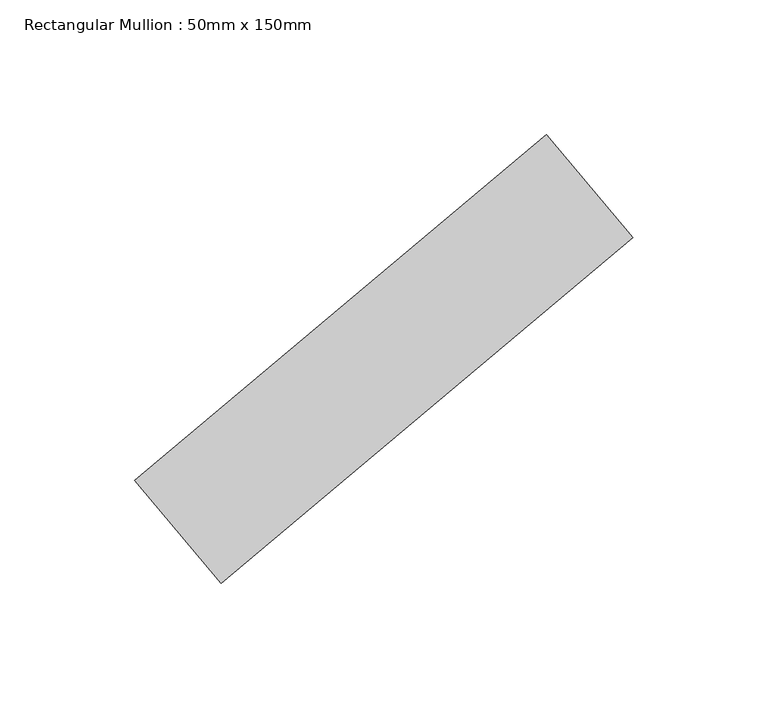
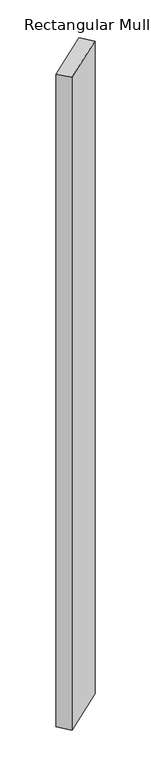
"""IFC4 building model written with IfcOpenShell, lengths in millimetres: member geometry, Rectangular Mullion : 50mm x 150mm."""

from ifc_helpers import new_model, si_unit, frame, origin, place, context, project, spatial, polyline, outline, extrude, source, transform, mapped, element, save


def rectangular_mullion_50mm_x_150mm_e900c828(model_context):
    return source(origin(), model_context, "Body", "SweptSolid", [
        extrude(outline(polyline([(21.6416584, 83.429872), (53.7810389, 45.1276499), (-99.4278497, -83.429872), (-131.5672302, -45.1276499), (21.6416584, 83.429872)])), frame((0.0, 0.0, -2380.0), z_axis=(0.0, 0.0, 1.0), x_axis=(1.0, 0.0, 0.0)), (0.0, 0.0, 1.0), 2380.0),
    ])


if __name__ == "__main__":
    model = new_model("IFC4")
    model_context = context("Model", 3, world=origin())
    ifc_project = project(units=[si_unit("LENGTHUNIT", "METRE", prefix="MILLI")], contexts=[model_context])
    site = spatial("IfcSite", under=ifc_project)
    building = spatial("IfcBuilding", under=site)
    placement = place(None, origin())
    rectangular_mullion_50mm_x_150mm_shape = rectangular_mullion_50mm_x_150mm_e900c828(model_context)
    element("IfcMember", 1, ObjectType="Rectangular Mullion : 50mm x 150mm", at=placement, inside=building, context=model_context, shape_type="MappedRepresentation", body=[
        mapped(rectangular_mullion_50mm_x_150mm_shape, transform((0.0, 0.0, 0.0), x_axis=(1.0, 0.0, 0.0), y_axis=(0.0, 1.0, 0.0), z_axis=(0.0, 0.0, 1.0))),
    ])
    save(model, "model.ifc")
